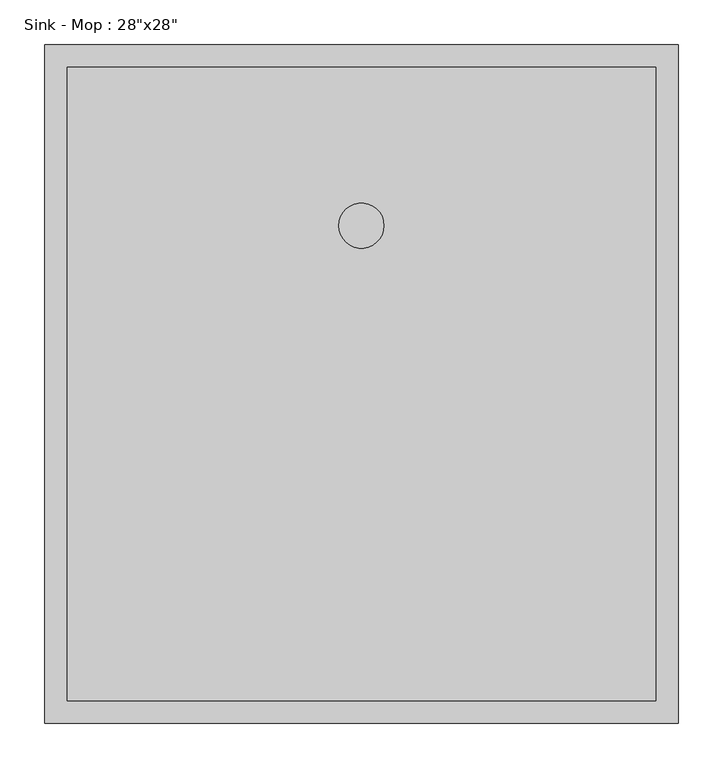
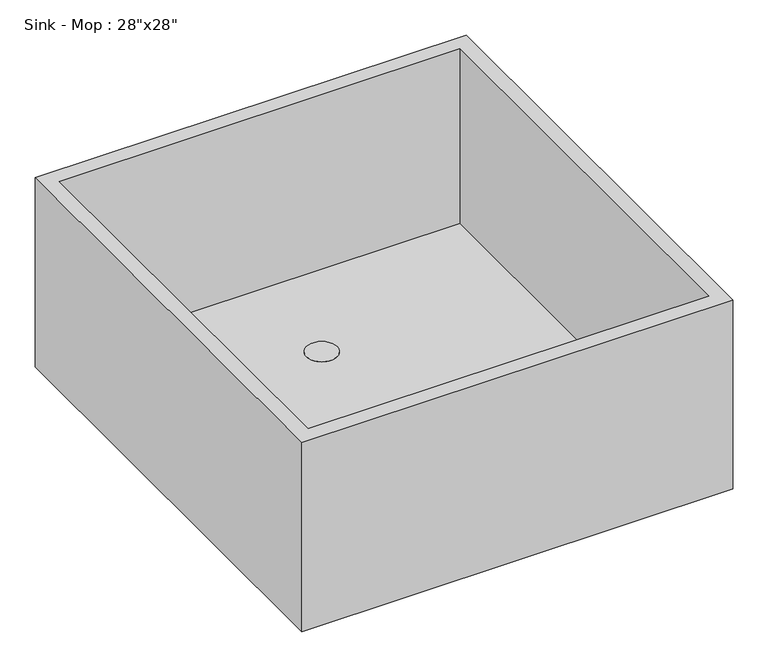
"""IFC4 building model written with IfcOpenShell, lengths in millimetres: flow terminal geometry."""

from ifc_helpers import new_model, si_unit, point, frame_2d, origin, origin_with_axes, place, context, project, spatial, circle_curve, trimmed, segment, composite_curve, outline, extrude, faceted_brep, source, transform, mapped, element, save


def flow_terminal_257a6d76(model_context):
    return source(origin(), model_context, "Body", "SolidModel", [
        extrude(outline(composite_curve([segment(trimmed(circle_curve(frame_2d((355.6, 558.8)), 25.4), [point((330.2, 558.8))], [point((381.0, 558.8))], False, "CARTESIAN"), True, "CONTINUOUS"), segment(trimmed(circle_curve(frame_2d((355.6, 558.8)), 25.4), [point((381.0, 558.8))], [point((330.2, 558.8))], False, "CARTESIAN"), True, "CONTINUOUS")], self_intersect=False)), origin_with_axes(), (0.0, 0.0, 1.0), 25.4),
        faceted_brep([(711.2, 0.0, 330.2), (711.2, 762.0, 330.2), (0.0, 762.0, 330.2), (0.0, 0.0, 330.2), (25.4, 25.4, 330.2), (25.4, 736.6, 330.2), (685.8, 736.6, 330.2), (685.8, 25.4, 330.2), (711.2, 0.0, 0.0), (0.0, 0.0, 0.0), (0.0, 762.0, 0.0), (711.2, 762.0, 0.0), (685.8, 25.4, 25.4), (685.8, 736.6, 25.4), (25.4, 736.6, 25.4), (25.4, 25.4, 25.4)], [[[0, 1, 2, 3], [4, 5, 6, 7]], [[8, 9, 10, 11]], [[3, 9, 8, 0]], [[2, 10, 9, 3]], [[1, 11, 10, 2]], [[0, 8, 11, 1]], [[12, 13, 14, 15]], [[15, 4, 7, 12]], [[14, 5, 4, 15]], [[13, 6, 5, 14]], [[12, 7, 6, 13]]]),
    ])


if __name__ == "__main__":
    model = new_model("IFC4")
    model_context = context("Model", 3, world=origin())
    ifc_project = project(units=[si_unit("LENGTHUNIT", "METRE", prefix="MILLI")], contexts=[model_context])
    site = spatial("IfcSite", under=ifc_project)
    building = spatial("IfcBuilding", under=site)
    placement = place(None, origin())
    flow_terminal_shape = flow_terminal_257a6d76(model_context)
    element("IfcFlowTerminal", 1, ObjectType="Sink - Mop : 28\"x28\"", at=placement, inside=building, context=model_context, shape_type="MappedRepresentation", body=[
        mapped(flow_terminal_shape, transform((0.0, 0.0, 0.0), x_axis=(1.0, 0.0, 0.0), y_axis=(0.0, 1.0, 0.0), z_axis=(0.0, 0.0, 1.0))),
    ])
    save(model, "model.ifc")
